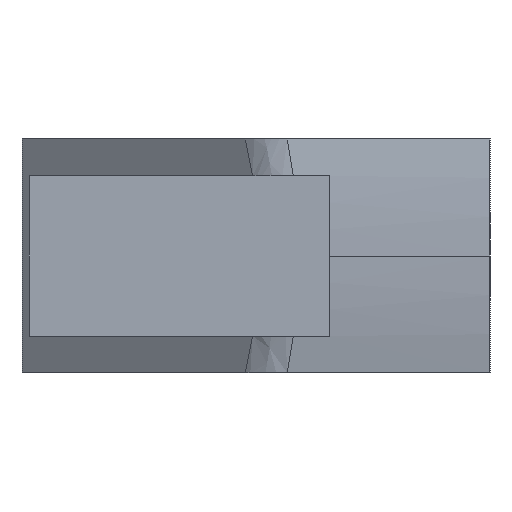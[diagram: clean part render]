
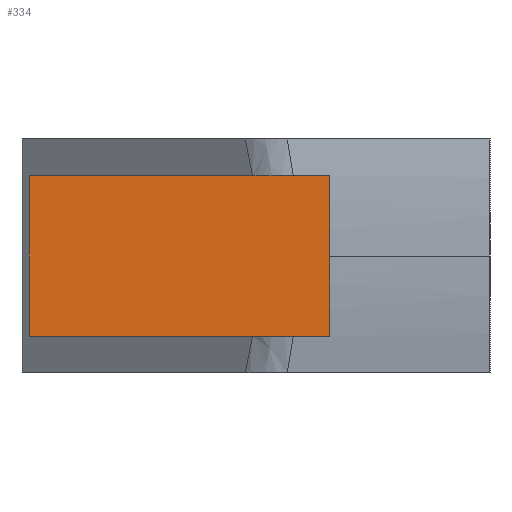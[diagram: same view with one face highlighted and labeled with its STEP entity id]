
A CAD part, left-side view. The second image highlights one B-rep face of the part: STEP entity #334.
In plain terms, the highlighted planar face has unit normal (-1, 0, 0).
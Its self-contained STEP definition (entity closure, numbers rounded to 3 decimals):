
#33 = DIRECTION ( 'NONE',  ( 0., 1., 0. ) ) ;
#44 = DIRECTION ( 'NONE',  ( 0., 0., 1. ) ) ;
#64 = VERTEX_POINT ( 'NONE', #193 ) ;
#85 = EDGE_CURVE ( 'NONE', #333, #144, #259, .T. ) ;
#100 = CARTESIAN_POINT ( 'NONE',  ( -2.201, -23.597, -6.5 ) ) ;
#121 = CARTESIAN_POINT ( 'NONE',  ( -2.201, -23.597, 6.5 ) ) ;
#144 = VERTEX_POINT ( 'NONE', #214 ) ;
#149 = AXIS2_PLACEMENT_3D ( 'NONE', #226, #802, #707 ) ;
#151 = DIRECTION ( 'NONE',  ( 0., 0., 1. ) ) ;
#193 = CARTESIAN_POINT ( 'NONE',  ( -2.201, 37.404, 6.5 ) ) ;
#195 = VERTEX_POINT ( 'NONE', #1103 ) ;
#208 = VECTOR ( 'NONE', #392, 1000. ) ;
#214 = CARTESIAN_POINT ( 'NONE',  ( -2.201, 37.404, -6.5 ) ) ;
#215 = LINE ( 'NONE', #1044, #947 ) ;
#226 = CARTESIAN_POINT ( 'NONE',  ( -2.201, -23.597, -6.5 ) ) ;
#241 = CARTESIAN_POINT ( 'NONE',  ( -2.201, 13., -6.5 ) ) ;
#259 = LINE ( 'NONE', #100, #208 ) ;
#333 = VERTEX_POINT ( 'NONE', #417 ) ;
#334 = ADVANCED_FACE ( 'NONE', ( #796 ), #1213, .F. ) ;
#350 = EDGE_CURVE ( 'NONE', #195, #64, #932, .T. ) ;
#392 = DIRECTION ( 'NONE',  ( 0., 1., 0. ) ) ;
#417 = CARTESIAN_POINT ( 'NONE',  ( -2.201, 13., -6.5 ) ) ;
#478 = VECTOR ( 'NONE', #33, 1000. ) ;
#581 = VECTOR ( 'NONE', #151, 1000. ) ;
#651 = ORIENTED_EDGE ( 'NONE', *, *, #1099, .F. ) ;
#665 = LINE ( 'NONE', #241, #581 ) ;
#707 = DIRECTION ( 'NONE',  ( 0., 1., 0. ) ) ;
#790 = EDGE_LOOP ( 'NONE', ( #828, #1221, #1058, #651 ) ) ;
#796 = FACE_OUTER_BOUND ( 'NONE', #790, .T. ) ;
#802 = DIRECTION ( 'NONE',  ( 1., 0., 0. ) ) ;
#828 = ORIENTED_EDGE ( 'NONE', *, *, #85, .F. ) ;
#932 = LINE ( 'NONE', #121, #478 ) ;
#947 = VECTOR ( 'NONE', #44, 1000. ) ;
#1044 = CARTESIAN_POINT ( 'NONE',  ( -2.201, 37.404, 9.5 ) ) ;
#1058 = ORIENTED_EDGE ( 'NONE', *, *, #350, .T. ) ;
#1099 = EDGE_CURVE ( 'NONE', #144, #64, #215, .T. ) ;
#1103 = CARTESIAN_POINT ( 'NONE',  ( -2.201, 13., 6.5 ) ) ;
#1169 = EDGE_CURVE ( 'NONE', #333, #195, #665, .T. ) ;
#1213 = PLANE ( 'NONE',  #149 ) ;
#1221 = ORIENTED_EDGE ( 'NONE', *, *, #1169, .T. ) ;
